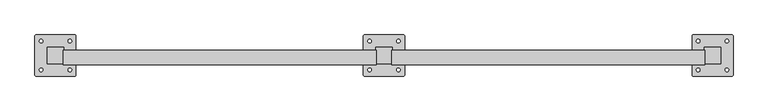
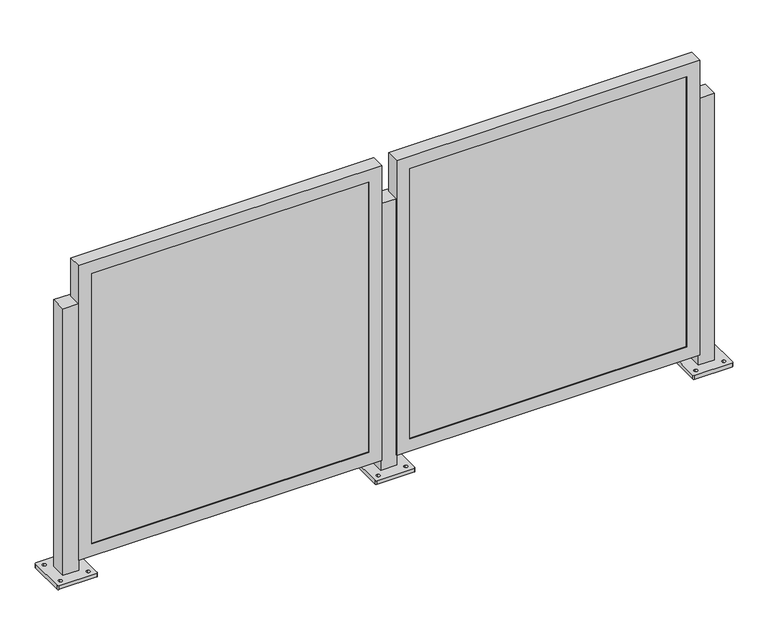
"""IFC4 building model written with IfcOpenShell, lengths in millimetres: railing geometry."""

from ifc_helpers import new_model, si_unit, frame, origin, place, context, project, spatial, polyline, circle_curve, outline, extrude, faceted_brep, source, transform, mapped, element, save
from ifc_brep_helpers import plane_surface, cylinder_surface, revolved_surface, advanced_brep


def railing_91e372f4(model_context):
    return source(origin(), model_context, "Body", "SolidModel", [
        advanced_brep(
        [(-26966.3219217, 2095.5584175, 914.4), (-26966.3219217, 2044.7584175, 914.4), (-26915.5219217, 2044.7584175, 914.4), (-26915.5219217, 2095.5584175, 914.4), (-27004.4219219, 2009.8334586, 0.0), (-27004.4219219, 2130.4833765, 0.0), (-27001.2468937, 2133.6584047, 0.0), (-26880.5969497, 2133.6584047, 0.0), (-26877.4219216, 2130.4833765, 0.0), (-26877.4219216, 2009.8334586, 0.0), (-26880.5969497, 2006.6584304, 0.0), (-27001.2468937, 2006.6584304, 0.0), (-26985.3719093, 2020.1521629, 0.0), (-26985.3719093, 2031.2646753, 0.0), (-26985.3719202, 2109.0521673, 0.0), (-26985.3719202, 2120.1646489, 0.0), (-26896.4719083, 2020.1521644, 0.0), (-26896.4719083, 2031.2646751, 0.0), (-26896.4719192, 2109.0521688, 0.0), (-26896.4719192, 2120.1646486, 0.0), (-26966.3219217, 2095.5584175, 12.7), (-26966.3219217, 2044.7584175, 12.7), (-26915.5219217, 2044.7584175, 12.7), (-26915.5219217, 2095.5584175, 12.7), (-27004.4219219, 2009.8334586, 12.7), (-27001.2468937, 2006.6584304, 12.7), (-26880.5969497, 2006.6584304, 12.7), (-26877.4219216, 2009.8334586, 12.7), (-26877.4219216, 2130.4833765, 12.7), (-26880.5969497, 2133.6584047, 12.7), (-27001.2468937, 2133.6584047, 12.7), (-27004.4219219, 2130.4833765, 12.7), (-26985.3719093, 2020.1521629, 12.7), (-26985.3719093, 2031.2646753, 12.7), (-26985.3719202, 2109.0521673, 12.7), (-26985.3719202, 2120.1646489, 12.7), (-26896.4719083, 2020.1521644, 12.7), (-26896.4719083, 2031.2646751, 12.7), (-26896.4719192, 2109.0521688, 12.7), (-26896.4719192, 2120.1646486, 12.7)],
        [
            (0, 1),
            (1, 2),
            (2, 3),
            (3, 0),
            (4, 5),
            (5, 6, circle_curve(frame((-27001.2468937, 2130.4833765, 0.0), z_axis=(0.0, 0.0, -1.0), x_axis=(0.0, 1.0, 0.0)), 3.1750282)),
            (6, 7),
            (7, 8, circle_curve(frame((-26880.5969497, 2130.4833765, 0.0), z_axis=(0.0, 0.0, -1.0), x_axis=(0.0, 1.0, 0.0)), 3.1750282)),
            (8, 9),
            (9, 10, circle_curve(frame((-26880.5969497, 2009.8334586, 0.0), z_axis=(0.0, 0.0, -1.0), x_axis=(0.0, 1.0, 0.0)), 3.1750282)),
            (10, 11),
            (11, 4, circle_curve(frame((-27001.2468937, 2009.8334586, 0.0), z_axis=(0.0, 0.0, -1.0), x_axis=(0.0, 1.0, 0.0)), 3.1750282)),
            (12, 13, circle_curve(frame((-26985.3719093, 2025.7084191, 0.0), z_axis=(0.0, 0.0, 1.0), x_axis=(0.0, 1.0, 0.0)), 5.5562562)),
            (13, 12, circle_curve(frame((-26985.3719093, 2025.7084191, 0.0), z_axis=(0.0, 0.0, 1.0), x_axis=(0.0, 1.0, 0.0)), 5.5562562)),
            (14, 15, circle_curve(frame((-26985.3719202, 2114.6084081, 0.0), z_axis=(0.0, 0.0, 1.0), x_axis=(0.0, 1.0, 0.0)), 5.5562408)),
            (15, 14, circle_curve(frame((-26985.3719202, 2114.6084081, 0.0), z_axis=(0.0, 0.0, 1.0), x_axis=(0.0, 1.0, 0.0)), 5.5562408)),
            (16, 17, circle_curve(frame((-26896.4719083, 2025.7084197, 0.0), z_axis=(0.0, 0.0, 1.0), x_axis=(0.0, 1.0, 0.0)), 5.5562553)),
            (17, 16, circle_curve(frame((-26896.4719083, 2025.7084197, 0.0), z_axis=(0.0, 0.0, 1.0), x_axis=(0.0, 1.0, 0.0)), 5.5562553)),
            (18, 19, circle_curve(frame((-26896.4719192, 2114.6084087, 0.0), z_axis=(0.0, 0.0, 1.0), x_axis=(0.0, 1.0, 0.0)), 5.5562399)),
            (19, 18, circle_curve(frame((-26896.4719192, 2114.6084087, 0.0), z_axis=(0.0, 0.0, 1.0), x_axis=(0.0, 1.0, 0.0)), 5.5562399)),
            (0, 20),
            (20, 21),
            (21, 1),
            (21, 22),
            (22, 2),
            (22, 23),
            (23, 3),
            (23, 20),
            (24, 25, circle_curve(frame((-27001.2468937, 2009.8334586, 12.7), z_axis=(0.0, 0.0, 1.0), x_axis=(0.0, 1.0, 0.0)), 3.1750282)),
            (25, 26),
            (26, 27, circle_curve(frame((-26880.5969497, 2009.8334586, 12.7), z_axis=(0.0, 0.0, 1.0), x_axis=(0.0, 1.0, 0.0)), 3.1750282)),
            (27, 28),
            (28, 29, circle_curve(frame((-26880.5969497, 2130.4833765, 12.7), z_axis=(0.0, 0.0, 1.0), x_axis=(0.0, 1.0, 0.0)), 3.1750282)),
            (29, 30),
            (30, 31, circle_curve(frame((-27001.2468937, 2130.4833765, 12.7), z_axis=(0.0, 0.0, 1.0), x_axis=(0.0, 1.0, 0.0)), 3.1750282)),
            (31, 24),
            (32, 33, circle_curve(frame((-26985.3719093, 2025.7084191, 12.7), z_axis=(0.0, 0.0, -1.0), x_axis=(0.0, 1.0, 0.0)), 5.5562562)),
            (33, 32, circle_curve(frame((-26985.3719093, 2025.7084191, 12.7), z_axis=(0.0, 0.0, -1.0), x_axis=(0.0, 1.0, 0.0)), 5.5562562)),
            (34, 35, circle_curve(frame((-26985.3719202, 2114.6084081, 12.7), z_axis=(0.0, 0.0, -1.0), x_axis=(0.0, 1.0, 0.0)), 5.5562408)),
            (35, 34, circle_curve(frame((-26985.3719202, 2114.6084081, 12.7), z_axis=(0.0, 0.0, -1.0), x_axis=(0.0, 1.0, 0.0)), 5.5562408)),
            (36, 37, circle_curve(frame((-26896.4719083, 2025.7084197, 12.7), z_axis=(0.0, 0.0, -1.0), x_axis=(0.0, 1.0, 0.0)), 5.5562553)),
            (37, 36, circle_curve(frame((-26896.4719083, 2025.7084197, 12.7), z_axis=(0.0, 0.0, -1.0), x_axis=(0.0, 1.0, 0.0)), 5.5562553)),
            (38, 39, circle_curve(frame((-26896.4719192, 2114.6084087, 12.7), z_axis=(0.0, 0.0, -1.0), x_axis=(0.0, 1.0, 0.0)), 5.5562399)),
            (39, 38, circle_curve(frame((-26896.4719192, 2114.6084087, 12.7), z_axis=(0.0, 0.0, -1.0), x_axis=(0.0, 1.0, 0.0)), 5.5562399)),
            (24, 4),
            (11, 25),
            (10, 26),
            (9, 27),
            (8, 28),
            (7, 29),
            (6, 30),
            (5, 31),
            (32, 12),
            (13, 33),
            (34, 14),
            (15, 35),
            (36, 16),
            (17, 37),
            (38, 18),
            (19, 39),
        ],
        [
            plane_surface(frame((-26966.3219217, 2044.7584175, 914.4), z_axis=(0.0, 0.0, 1.0), x_axis=(0.0, -1.0, 0.0))),
            plane_surface(frame((-26966.3219217, 2044.7584175, 0.0), z_axis=(0.0, 0.0, -1.0), x_axis=(0.0, 1.0, 0.0))),
            plane_surface(frame((-26966.3219217, 2095.5584175, 914.4), z_axis=(-1.0, 0.0, 0.0), x_axis=(0.0, 0.0, -1.0))),
            plane_surface(frame((-26966.3219217, 2044.7584175, 914.4), z_axis=(0.0, -1.0, 0.0), x_axis=(0.0, 0.0, -1.0))),
            plane_surface(frame((-26915.5219217, 2044.7584175, 914.4), z_axis=(1.0, 0.0, 0.0), x_axis=(0.0, 0.0, -1.0))),
            plane_surface(frame((-26915.5219217, 2095.5584175, 914.4), z_axis=(0.0, 1.0, 0.0), x_axis=(0.0, 0.0, -1.0))),
            plane_surface(frame((-27001.2468937, 2013.0084867, 12.7), z_axis=(0.0, 0.0, 1.0), x_axis=(-1.0, 0.0, 0.0))),
            cylinder_surface(frame((-27001.2468937, 2009.8334586, 0.0), z_axis=(0.0, 0.0, 1.0), x_axis=(0.0, 1.0, 0.0)), 3.1750282),
            plane_surface(frame((-27001.2468937, 2006.6584304, 12.7), z_axis=(1.1945386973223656e-12, -1.0, 0.0), x_axis=(0.0, 0.0, -1.0))),
            cylinder_surface(frame((-26880.5969497, 2009.8334586, 0.0), z_axis=(0.0, 0.0, 1.0), x_axis=(0.0, 1.0, 0.0)), 3.1750282),
            plane_surface(frame((-26877.4219216, 2009.8334586, 12.7), z_axis=(1.0, 0.0, 0.0), x_axis=(0.0, 0.0, -1.0))),
            cylinder_surface(frame((-26880.5969497, 2130.4833765, 0.0), z_axis=(0.0, 0.0, 1.0), x_axis=(0.0, 1.0, 0.0)), 3.1750282),
            plane_surface(frame((-26880.5969497, 2133.6584047, 12.7), z_axis=(-1.1946088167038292e-12, 1.0, 0.0), x_axis=(0.0, 0.0, -1.0))),
            cylinder_surface(frame((-27001.2468937, 2130.4833765, 0.0), z_axis=(0.0, 0.0, 1.0), x_axis=(0.0, 1.0, 0.0)), 3.1750282),
            plane_surface(frame((-27004.4219219, 2130.4833765, 12.7), z_axis=(-1.0, 0.0, 0.0), x_axis=(0.0, 0.0, -1.0))),
            revolved_surface(polyline([(-26985.3719093, 2031.2646753, 0.0), (-26985.3719093, 2031.2646753, 12.7)]), (-26985.3719093, 2025.7084191, 0.0), (0.0, 0.0, -1.0)),
            revolved_surface(polyline([(-26985.3719202, 2120.1646489, 0.0), (-26985.3719202, 2120.1646489, 12.7)]), (-26985.3719202, 2114.6084081, 0.0), (0.0, 0.0, -1.0)),
            revolved_surface(polyline([(-26896.4719083, 2031.264675, 0.0), (-26896.4719083, 2031.264675, 12.7)]), (-26896.4719083, 2025.7084197, 0.0), (0.0, 0.0, -1.0)),
            revolved_surface(polyline([(-26896.4719192, 2120.1646486, 0.0), (-26896.4719192, 2120.1646486, 12.7)]), (-26896.4719192, 2114.6084087, 0.0), (0.0, 0.0, -1.0)),
        ],
        [
            (0, [[1, 2, 3, 4]]),
            (1, [[5, 6, 7, 8, 9, 10, 11, 12], [13, 14], [15, 16], [17, 18], [19, 20]]),
            (2, [[-1, 21, 22, 23]]),
            (3, [[-2, -23, 24, 25]]),
            (4, [[-3, -25, 26, 27]]),
            (5, [[-4, -27, 28, -21]]),
            (6, [[29, 30, 31, 32, 33, 34, 35, 36], [-22, -28, -26, -24], [37, 38], [39, 40], [41, 42], [43, 44]]),
            (7, [[-29, 45, -12, 46]]),
            (8, [[-30, -46, -11, 47]]),
            (9, [[-31, -47, -10, 48]]),
            (10, [[-32, -48, -9, 49]]),
            (11, [[-33, -49, -8, 50]]),
            (12, [[-34, -50, -7, 51]]),
            (13, [[-35, -51, -6, 52]]),
            (14, [[-36, -52, -5, -45]]),
            (15, [[-37, 53, -14, 54]]),
            (15, [[-38, -54, -13, -53]]),
            (16, [[-39, 55, -16, 56]]),
            (16, [[-40, -56, -15, -55]]),
            (17, [[-41, 57, -18, 58]]),
            (17, [[-42, -58, -17, -57]]),
            (18, [[-43, 59, -20, 60]]),
            (18, [[-44, -60, -19, -59]]),
        ],
    ),
        faceted_brep([(-27932.7263751, 2042.0152175, 47.625), (-26964.3513751, 2042.0152175, 47.625), (-26964.3513751, 2042.0152175, 1044.575), (-27932.7263751, 2042.0152175, 1044.575), (-27891.4513751, 2042.0152175, 1003.3), (-27005.6263751, 2042.0152175, 1003.3), (-27005.6263751, 2042.0152175, 88.9), (-27891.4513751, 2042.0152175, 88.9), (-27891.4513751, 2044.7584175, 1003.3), (-27891.4513751, 2044.7584175, 88.9), (-27932.7263751, 2085.8885141, 1044.575), (-27932.7263751, 2085.8885141, 47.625), (-27929.5513751, 2085.8885141, 1041.4), (-27929.5513751, 2044.7584175, 1041.4), (-27929.5513751, 2044.7584175, 50.8), (-27929.5513751, 2085.8885141, 50.8), (-27005.6263751, 2044.7584175, 88.9), (-26964.3513751, 2085.8885141, 47.625), (-26967.5263751, 2044.7584175, 50.8), (-26967.5263751, 2085.8885141, 50.8), (-27005.6263751, 2044.7584175, 1003.3), (-26964.3513751, 2085.8885141, 1044.575), (-26967.5263751, 2044.7584175, 1041.4), (-26967.5263751, 2085.8885141, 1041.4)], [[[0, 1, 2, 3], [4, 5, 6, 7]], [[8, 4, 7, 9]], [[3, 10, 11, 0]], [[12, 13, 14, 15]], [[9, 7, 6, 16]], [[0, 11, 17, 1]], [[15, 14, 18, 19]], [[16, 6, 5, 20]], [[1, 17, 21, 2]], [[19, 18, 22, 23]], [[20, 5, 4, 8]], [[10, 21, 17, 11], [15, 19, 23, 12]], [[2, 21, 10, 3]], [[13, 22, 18, 14], [9, 16, 20, 8]], [[23, 22, 13, 12]]]),
        extrude(outline(polyline([(-27929.5513751, 2054.2834175), (-26967.5263751, 2054.2834175), (-26967.5263751, 2044.7584175), (-27929.5513751, 2044.7584175), (-27929.5513751, 2054.2834175)])), frame((0.0, 0.0, 50.8), z_axis=(0.0, 0.0, 1.0), x_axis=(1.0, 0.0, 0.0)), (0.0, 0.0, 1.0), 990.6),
        advanced_brep(
        [(-27982.3219217, 2095.5584175, 914.4), (-27982.3219217, 2044.7584175, 914.4), (-27931.5219217, 2044.7584175, 914.4), (-27931.5219217, 2095.5584175, 914.4), (-28020.4219219, 2009.8334586, 0.0), (-28020.4219219, 2130.4833765, 0.0), (-28017.2468937, 2133.6584047, 0.0), (-27896.5969497, 2133.6584047, 0.0), (-27893.4219216, 2130.4833765, 0.0), (-27893.4219216, 2009.8334586, 0.0), (-27896.5969497, 2006.6584304, 0.0), (-28017.2468937, 2006.6584304, 0.0), (-28001.3719093, 2020.1521629, 0.0), (-28001.3719093, 2031.2646753, 0.0), (-28001.3719202, 2109.0521673, 0.0), (-28001.3719202, 2120.1646489, 0.0), (-27912.4719083, 2020.1521644, 0.0), (-27912.4719083, 2031.2646751, 0.0), (-27912.4719192, 2109.0521688, 0.0), (-27912.4719192, 2120.1646486, 0.0), (-27982.3219217, 2095.5584175, 12.7), (-27982.3219217, 2044.7584175, 12.7), (-27931.5219217, 2044.7584175, 12.7), (-27931.5219217, 2095.5584175, 12.7), (-28020.4219219, 2009.8334586, 12.7), (-28017.2468937, 2006.6584304, 12.7), (-27896.5969497, 2006.6584304, 12.7), (-27893.4219216, 2009.8334586, 12.7), (-27893.4219216, 2130.4833765, 12.7), (-27896.5969497, 2133.6584047, 12.7), (-28017.2468937, 2133.6584047, 12.7), (-28020.4219219, 2130.4833765, 12.7), (-28001.3719093, 2020.1521629, 12.7), (-28001.3719093, 2031.2646753, 12.7), (-28001.3719202, 2109.0521673, 12.7), (-28001.3719202, 2120.1646489, 12.7), (-27912.4719083, 2020.1521644, 12.7), (-27912.4719083, 2031.2646751, 12.7), (-27912.4719192, 2109.0521688, 12.7), (-27912.4719192, 2120.1646486, 12.7)],
        [
            (0, 1),
            (1, 2),
            (2, 3),
            (3, 0),
            (4, 5),
            (5, 6, circle_curve(frame((-28017.2468937, 2130.4833765, 0.0), z_axis=(0.0, 0.0, -1.0), x_axis=(0.0, 1.0, 0.0)), 3.1750282)),
            (6, 7),
            (7, 8, circle_curve(frame((-27896.5969497, 2130.4833765, 0.0), z_axis=(0.0, 0.0, -1.0), x_axis=(0.0, 1.0, 0.0)), 3.1750282)),
            (8, 9),
            (9, 10, circle_curve(frame((-27896.5969497, 2009.8334586, 0.0), z_axis=(0.0, 0.0, -1.0), x_axis=(0.0, 1.0, 0.0)), 3.1750282)),
            (10, 11),
            (11, 4, circle_curve(frame((-28017.2468937, 2009.8334586, 0.0), z_axis=(0.0, 0.0, -1.0), x_axis=(0.0, 1.0, 0.0)), 3.1750282)),
            (12, 13, circle_curve(frame((-28001.3719093, 2025.7084191, 0.0), z_axis=(0.0, 0.0, 1.0), x_axis=(0.0, 1.0, 0.0)), 5.5562562)),
            (13, 12, circle_curve(frame((-28001.3719093, 2025.7084191, 0.0), z_axis=(0.0, 0.0, 1.0), x_axis=(0.0, 1.0, 0.0)), 5.5562562)),
            (14, 15, circle_curve(frame((-28001.3719202, 2114.6084081, 0.0), z_axis=(0.0, 0.0, 1.0), x_axis=(0.0, 1.0, 0.0)), 5.5562408)),
            (15, 14, circle_curve(frame((-28001.3719202, 2114.6084081, 0.0), z_axis=(0.0, 0.0, 1.0), x_axis=(0.0, 1.0, 0.0)), 5.5562408)),
            (16, 17, circle_curve(frame((-27912.4719083, 2025.7084197, 0.0), z_axis=(0.0, 0.0, 1.0), x_axis=(0.0, 1.0, 0.0)), 5.5562553)),
            (17, 16, circle_curve(frame((-27912.4719083, 2025.7084197, 0.0), z_axis=(0.0, 0.0, 1.0), x_axis=(0.0, 1.0, 0.0)), 5.5562553)),
            (18, 19, circle_curve(frame((-27912.4719192, 2114.6084087, 0.0), z_axis=(0.0, 0.0, 1.0), x_axis=(0.0, 1.0, 0.0)), 5.5562399)),
            (19, 18, circle_curve(frame((-27912.4719192, 2114.6084087, 0.0), z_axis=(0.0, 0.0, 1.0), x_axis=(0.0, 1.0, 0.0)), 5.5562399)),
            (0, 20),
            (20, 21),
            (21, 1),
            (21, 22),
            (22, 2),
            (22, 23),
            (23, 3),
            (23, 20),
            (24, 25, circle_curve(frame((-28017.2468937, 2009.8334586, 12.7), z_axis=(0.0, 0.0, 1.0), x_axis=(0.0, 1.0, 0.0)), 3.1750282)),
            (25, 26),
            (26, 27, circle_curve(frame((-27896.5969497, 2009.8334586, 12.7), z_axis=(0.0, 0.0, 1.0), x_axis=(0.0, 1.0, 0.0)), 3.1750282)),
            (27, 28),
            (28, 29, circle_curve(frame((-27896.5969497, 2130.4833765, 12.7), z_axis=(0.0, 0.0, 1.0), x_axis=(0.0, 1.0, 0.0)), 3.1750282)),
            (29, 30),
            (30, 31, circle_curve(frame((-28017.2468937, 2130.4833765, 12.7), z_axis=(0.0, 0.0, 1.0), x_axis=(0.0, 1.0, 0.0)), 3.1750282)),
            (31, 24),
            (32, 33, circle_curve(frame((-28001.3719093, 2025.7084191, 12.7), z_axis=(0.0, 0.0, -1.0), x_axis=(0.0, 1.0, 0.0)), 5.5562562)),
            (33, 32, circle_curve(frame((-28001.3719093, 2025.7084191, 12.7), z_axis=(0.0, 0.0, -1.0), x_axis=(0.0, 1.0, 0.0)), 5.5562562)),
            (34, 35, circle_curve(frame((-28001.3719202, 2114.6084081, 12.7), z_axis=(0.0, 0.0, -1.0), x_axis=(0.0, 1.0, 0.0)), 5.5562408)),
            (35, 34, circle_curve(frame((-28001.3719202, 2114.6084081, 12.7), z_axis=(0.0, 0.0, -1.0), x_axis=(0.0, 1.0, 0.0)), 5.5562408)),
            (36, 37, circle_curve(frame((-27912.4719083, 2025.7084197, 12.7), z_axis=(0.0, 0.0, -1.0), x_axis=(0.0, 1.0, 0.0)), 5.5562553)),
            (37, 36, circle_curve(frame((-27912.4719083, 2025.7084197, 12.7), z_axis=(0.0, 0.0, -1.0), x_axis=(0.0, 1.0, 0.0)), 5.5562553)),
            (38, 39, circle_curve(frame((-27912.4719192, 2114.6084087, 12.7), z_axis=(0.0, 0.0, -1.0), x_axis=(0.0, 1.0, 0.0)), 5.5562399)),
            (39, 38, circle_curve(frame((-27912.4719192, 2114.6084087, 12.7), z_axis=(0.0, 0.0, -1.0), x_axis=(0.0, 1.0, 0.0)), 5.5562399)),
            (24, 4),
            (11, 25),
            (10, 26),
            (9, 27),
            (8, 28),
            (7, 29),
            (6, 30),
            (5, 31),
            (32, 12),
            (13, 33),
            (34, 14),
            (15, 35),
            (36, 16),
            (17, 37),
            (38, 18),
            (19, 39),
        ],
        [
            plane_surface(frame((-27982.3219217, 2044.7584175, 914.4), z_axis=(0.0, 0.0, 1.0), x_axis=(0.0, -1.0, 0.0))),
            plane_surface(frame((-27982.3219217, 2044.7584175, 0.0), z_axis=(0.0, 0.0, -1.0), x_axis=(0.0, 1.0, 0.0))),
            plane_surface(frame((-27982.3219217, 2095.5584175, 914.4), z_axis=(-1.0, 0.0, 0.0), x_axis=(0.0, 0.0, -1.0))),
            plane_surface(frame((-27982.3219217, 2044.7584175, 914.4), z_axis=(0.0, -1.0, 0.0), x_axis=(0.0, 0.0, -1.0))),
            plane_surface(frame((-27931.5219217, 2044.7584175, 914.4), z_axis=(1.0, 0.0, 0.0), x_axis=(0.0, 0.0, -1.0))),
            plane_surface(frame((-27931.5219217, 2095.5584175, 914.4), z_axis=(0.0, 1.0, 0.0), x_axis=(0.0, 0.0, -1.0))),
            plane_surface(frame((-28017.2468937, 2013.0084867, 12.7), z_axis=(0.0, 0.0, 1.0), x_axis=(-1.0, 0.0, 0.0))),
            cylinder_surface(frame((-28017.2468937, 2009.8334586, 0.0), z_axis=(0.0, 0.0, 1.0), x_axis=(0.0, 1.0, 0.0)), 3.1750282),
            plane_surface(frame((-28017.2468937, 2006.6584304, 12.7), z_axis=(1.1945386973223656e-12, -1.0, 0.0), x_axis=(0.0, 0.0, -1.0))),
            cylinder_surface(frame((-27896.5969497, 2009.8334586, 0.0), z_axis=(0.0, 0.0, 1.0), x_axis=(0.0, 1.0, 0.0)), 3.1750282),
            plane_surface(frame((-27893.4219216, 2009.8334586, 12.7), z_axis=(1.0, 0.0, 0.0), x_axis=(0.0, 0.0, -1.0))),
            cylinder_surface(frame((-27896.5969497, 2130.4833765, 0.0), z_axis=(0.0, 0.0, 1.0), x_axis=(0.0, 1.0, 0.0)), 3.1750282),
            plane_surface(frame((-27896.5969497, 2133.6584047, 12.7), z_axis=(-1.1946088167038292e-12, 1.0, 0.0), x_axis=(0.0, 0.0, -1.0))),
            cylinder_surface(frame((-28017.2468937, 2130.4833765, 0.0), z_axis=(0.0, 0.0, 1.0), x_axis=(0.0, 1.0, 0.0)), 3.1750282),
            plane_surface(frame((-28020.4219219, 2130.4833765, 12.7), z_axis=(-1.0, 0.0, 0.0), x_axis=(0.0, 0.0, -1.0))),
            revolved_surface(polyline([(-28001.3719093, 2031.2646753, 0.0), (-28001.3719093, 2031.2646753, 12.7)]), (-28001.3719093, 2025.7084191, 0.0), (0.0, 0.0, -1.0)),
            revolved_surface(polyline([(-28001.3719202, 2120.1646489, 0.0), (-28001.3719202, 2120.1646489, 12.7)]), (-28001.3719202, 2114.6084081, 0.0), (0.0, 0.0, -1.0)),
            revolved_surface(polyline([(-27912.4719083, 2031.264675, 0.0), (-27912.4719083, 2031.264675, 12.7)]), (-27912.4719083, 2025.7084197, 0.0), (0.0, 0.0, -1.0)),
            revolved_surface(polyline([(-27912.4719192, 2120.1646486, 0.0), (-27912.4719192, 2120.1646486, 12.7)]), (-27912.4719192, 2114.6084087, 0.0), (0.0, 0.0, -1.0)),
        ],
        [
            (0, [[1, 2, 3, 4]]),
            (1, [[5, 6, 7, 8, 9, 10, 11, 12], [13, 14], [15, 16], [17, 18], [19, 20]]),
            (2, [[-1, 21, 22, 23]]),
            (3, [[-2, -23, 24, 25]]),
            (4, [[-3, -25, 26, 27]]),
            (5, [[-4, -27, 28, -21]]),
            (6, [[29, 30, 31, 32, 33, 34, 35, 36], [-22, -28, -26, -24], [37, 38], [39, 40], [41, 42], [43, 44]]),
            (7, [[-29, 45, -12, 46]]),
            (8, [[-30, -46, -11, 47]]),
            (9, [[-31, -47, -10, 48]]),
            (10, [[-32, -48, -9, 49]]),
            (11, [[-33, -49, -8, 50]]),
            (12, [[-34, -50, -7, 51]]),
            (13, [[-35, -51, -6, 52]]),
            (14, [[-36, -52, -5, -45]]),
            (15, [[-37, 53, -14, 54]]),
            (15, [[-38, -54, -13, -53]]),
            (16, [[-39, 55, -16, 56]]),
            (16, [[-40, -56, -15, -55]]),
            (17, [[-41, 57, -18, 58]]),
            (17, [[-42, -58, -17, -57]]),
            (18, [[-43, 59, -20, 60]]),
            (18, [[-44, -60, -19, -59]]),
        ],
    ),
        faceted_brep([(-28948.7263751, 2042.0152175, 47.625), (-27980.3513751, 2042.0152175, 47.625), (-27980.3513751, 2042.0152175, 1044.575), (-28948.7263751, 2042.0152175, 1044.575), (-28907.4513751, 2042.0152175, 1003.3), (-28021.6263751, 2042.0152175, 1003.3), (-28021.6263751, 2042.0152175, 88.9), (-28907.4513751, 2042.0152175, 88.9), (-28907.4513751, 2044.7584175, 1003.3), (-28907.4513751, 2044.7584175, 88.9), (-28948.7263751, 2085.8885141, 1044.575), (-28948.7263751, 2085.8885141, 47.625), (-28945.5513751, 2085.8885141, 1041.4), (-28945.5513751, 2044.7584175, 1041.4), (-28945.5513751, 2044.7584175, 50.8), (-28945.5513751, 2085.8885141, 50.8), (-28021.6263751, 2044.7584175, 88.9), (-27980.3513751, 2085.8885141, 47.625), (-27983.5263751, 2044.7584175, 50.8), (-27983.5263751, 2085.8885141, 50.8), (-28021.6263751, 2044.7584175, 1003.3), (-27980.3513751, 2085.8885141, 1044.575), (-27983.5263751, 2044.7584175, 1041.4), (-27983.5263751, 2085.8885141, 1041.4)], [[[0, 1, 2, 3], [4, 5, 6, 7]], [[8, 4, 7, 9]], [[3, 10, 11, 0]], [[12, 13, 14, 15]], [[9, 7, 6, 16]], [[0, 11, 17, 1]], [[15, 14, 18, 19]], [[16, 6, 5, 20]], [[1, 17, 21, 2]], [[19, 18, 22, 23]], [[20, 5, 4, 8]], [[10, 21, 17, 11], [15, 19, 23, 12]], [[2, 21, 10, 3]], [[13, 22, 18, 14], [9, 16, 20, 8]], [[23, 22, 13, 12]]]),
        extrude(outline(polyline([(-28945.5513751, 2054.2834175), (-27983.5263751, 2054.2834175), (-27983.5263751, 2044.7584175), (-28945.5513751, 2044.7584175), (-28945.5513751, 2054.2834175)])), frame((0.0, 0.0, 50.8), z_axis=(0.0, 0.0, 1.0), x_axis=(1.0, 0.0, 0.0)), (0.0, 0.0, 1.0), 990.6),
        advanced_brep(
        [(-28998.3219217, 2095.5584175, 914.4), (-28998.3219217, 2044.7584175, 914.4), (-28947.5219217, 2044.7584175, 914.4), (-28947.5219217, 2095.5584175, 914.4), (-29036.4219219, 2009.8334586, 0.0), (-29036.4219219, 2130.4833765, 0.0), (-29033.2468937, 2133.6584047, 0.0), (-28912.5969497, 2133.6584047, 0.0), (-28909.4219216, 2130.4833765, 0.0), (-28909.4219216, 2009.8334586, 0.0), (-28912.5969497, 2006.6584304, 0.0), (-29033.2468937, 2006.6584304, 0.0), (-29017.3719093, 2020.1521629, 0.0), (-29017.3719093, 2031.2646753, 0.0), (-29017.3719202, 2109.0521673, 0.0), (-29017.3719202, 2120.1646489, 0.0), (-28928.4719083, 2020.1521644, 0.0), (-28928.4719083, 2031.2646751, 0.0), (-28928.4719192, 2109.0521688, 0.0), (-28928.4719192, 2120.1646486, 0.0), (-28998.3219217, 2095.5584175, 12.7), (-28998.3219217, 2044.7584175, 12.7), (-28947.5219217, 2044.7584175, 12.7), (-28947.5219217, 2095.5584175, 12.7), (-29036.4219219, 2009.8334586, 12.7), (-29033.2468937, 2006.6584304, 12.7), (-28912.5969497, 2006.6584304, 12.7), (-28909.4219216, 2009.8334586, 12.7), (-28909.4219216, 2130.4833765, 12.7), (-28912.5969497, 2133.6584047, 12.7), (-29033.2468937, 2133.6584047, 12.7), (-29036.4219219, 2130.4833765, 12.7), (-29017.3719093, 2020.1521629, 12.7), (-29017.3719093, 2031.2646753, 12.7), (-29017.3719202, 2109.0521673, 12.7), (-29017.3719202, 2120.1646489, 12.7), (-28928.4719083, 2020.1521644, 12.7), (-28928.4719083, 2031.2646751, 12.7), (-28928.4719192, 2109.0521688, 12.7), (-28928.4719192, 2120.1646486, 12.7)],
        [
            (0, 1),
            (1, 2),
            (2, 3),
            (3, 0),
            (4, 5),
            (5, 6, circle_curve(frame((-29033.2468937, 2130.4833765, 0.0), z_axis=(0.0, 0.0, -1.0), x_axis=(0.0, 1.0, 0.0)), 3.1750282)),
            (6, 7),
            (7, 8, circle_curve(frame((-28912.5969497, 2130.4833765, 0.0), z_axis=(0.0, 0.0, -1.0), x_axis=(0.0, 1.0, 0.0)), 3.1750282)),
            (8, 9),
            (9, 10, circle_curve(frame((-28912.5969497, 2009.8334586, 0.0), z_axis=(0.0, 0.0, -1.0), x_axis=(0.0, 1.0, 0.0)), 3.1750282)),
            (10, 11),
            (11, 4, circle_curve(frame((-29033.2468937, 2009.8334586, 0.0), z_axis=(0.0, 0.0, -1.0), x_axis=(0.0, 1.0, 0.0)), 3.1750282)),
            (12, 13, circle_curve(frame((-29017.3719093, 2025.7084191, 0.0), z_axis=(0.0, 0.0, 1.0), x_axis=(0.0, 1.0, 0.0)), 5.5562562)),
            (13, 12, circle_curve(frame((-29017.3719093, 2025.7084191, 0.0), z_axis=(0.0, 0.0, 1.0), x_axis=(0.0, 1.0, 0.0)), 5.5562562)),
            (14, 15, circle_curve(frame((-29017.3719202, 2114.6084081, 0.0), z_axis=(0.0, 0.0, 1.0), x_axis=(0.0, 1.0, 0.0)), 5.5562408)),
            (15, 14, circle_curve(frame((-29017.3719202, 2114.6084081, 0.0), z_axis=(0.0, 0.0, 1.0), x_axis=(0.0, 1.0, 0.0)), 5.5562408)),
            (16, 17, circle_curve(frame((-28928.4719083, 2025.7084197, 0.0), z_axis=(0.0, 0.0, 1.0), x_axis=(0.0, 1.0, 0.0)), 5.5562553)),
            (17, 16, circle_curve(frame((-28928.4719083, 2025.7084197, 0.0), z_axis=(0.0, 0.0, 1.0), x_axis=(0.0, 1.0, 0.0)), 5.5562553)),
            (18, 19, circle_curve(frame((-28928.4719192, 2114.6084087, 0.0), z_axis=(0.0, 0.0, 1.0), x_axis=(0.0, 1.0, 0.0)), 5.5562399)),
            (19, 18, circle_curve(frame((-28928.4719192, 2114.6084087, 0.0), z_axis=(0.0, 0.0, 1.0), x_axis=(0.0, 1.0, 0.0)), 5.5562399)),
            (0, 20),
            (20, 21),
            (21, 1),
            (21, 22),
            (22, 2),
            (22, 23),
            (23, 3),
            (23, 20),
            (24, 25, circle_curve(frame((-29033.2468937, 2009.8334586, 12.7), z_axis=(0.0, 0.0, 1.0), x_axis=(0.0, 1.0, 0.0)), 3.1750282)),
            (25, 26),
            (26, 27, circle_curve(frame((-28912.5969497, 2009.8334586, 12.7), z_axis=(0.0, 0.0, 1.0), x_axis=(0.0, 1.0, 0.0)), 3.1750282)),
            (27, 28),
            (28, 29, circle_curve(frame((-28912.5969497, 2130.4833765, 12.7), z_axis=(0.0, 0.0, 1.0), x_axis=(0.0, 1.0, 0.0)), 3.1750282)),
            (29, 30),
            (30, 31, circle_curve(frame((-29033.2468937, 2130.4833765, 12.7), z_axis=(0.0, 0.0, 1.0), x_axis=(0.0, 1.0, 0.0)), 3.1750282)),
            (31, 24),
            (32, 33, circle_curve(frame((-29017.3719093, 2025.7084191, 12.7), z_axis=(0.0, 0.0, -1.0), x_axis=(0.0, 1.0, 0.0)), 5.5562562)),
            (33, 32, circle_curve(frame((-29017.3719093, 2025.7084191, 12.7), z_axis=(0.0, 0.0, -1.0), x_axis=(0.0, 1.0, 0.0)), 5.5562562)),
            (34, 35, circle_curve(frame((-29017.3719202, 2114.6084081, 12.7), z_axis=(0.0, 0.0, -1.0), x_axis=(0.0, 1.0, 0.0)), 5.5562408)),
            (35, 34, circle_curve(frame((-29017.3719202, 2114.6084081, 12.7), z_axis=(0.0, 0.0, -1.0), x_axis=(0.0, 1.0, 0.0)), 5.5562408)),
            (36, 37, circle_curve(frame((-28928.4719083, 2025.7084197, 12.7), z_axis=(0.0, 0.0, -1.0), x_axis=(0.0, 1.0, 0.0)), 5.5562553)),
            (37, 36, circle_curve(frame((-28928.4719083, 2025.7084197, 12.7), z_axis=(0.0, 0.0, -1.0), x_axis=(0.0, 1.0, 0.0)), 5.5562553)),
            (38, 39, circle_curve(frame((-28928.4719192, 2114.6084087, 12.7), z_axis=(0.0, 0.0, -1.0), x_axis=(0.0, 1.0, 0.0)), 5.5562399)),
            (39, 38, circle_curve(frame((-28928.4719192, 2114.6084087, 12.7), z_axis=(0.0, 0.0, -1.0), x_axis=(0.0, 1.0, 0.0)), 5.5562399)),
            (24, 4),
            (11, 25),
            (10, 26),
            (9, 27),
            (8, 28),
            (7, 29),
            (6, 30),
            (5, 31),
            (32, 12),
            (13, 33),
            (34, 14),
            (15, 35),
            (36, 16),
            (17, 37),
            (38, 18),
            (19, 39),
        ],
        [
            plane_surface(frame((-28998.3219217, 2044.7584175, 914.4), z_axis=(0.0, 0.0, 1.0), x_axis=(0.0, -1.0, 0.0))),
            plane_surface(frame((-28998.3219217, 2044.7584175, 0.0), z_axis=(0.0, 0.0, -1.0), x_axis=(0.0, 1.0, 0.0))),
            plane_surface(frame((-28998.3219217, 2095.5584175, 914.4), z_axis=(-1.0, 0.0, 0.0), x_axis=(0.0, 0.0, -1.0))),
            plane_surface(frame((-28998.3219217, 2044.7584175, 914.4), z_axis=(0.0, -1.0, 0.0), x_axis=(0.0, 0.0, -1.0))),
            plane_surface(frame((-28947.5219217, 2044.7584175, 914.4), z_axis=(1.0, 0.0, 0.0), x_axis=(0.0, 0.0, -1.0))),
            plane_surface(frame((-28947.5219217, 2095.5584175, 914.4), z_axis=(0.0, 1.0, 0.0), x_axis=(0.0, 0.0, -1.0))),
            plane_surface(frame((-29033.2468937, 2013.0084867, 12.7), z_axis=(0.0, 0.0, 1.0), x_axis=(-1.0, 0.0, 0.0))),
            cylinder_surface(frame((-29033.2468937, 2009.8334586, 0.0), z_axis=(0.0, 0.0, 1.0), x_axis=(0.0, 1.0, 0.0)), 3.1750282),
            plane_surface(frame((-29033.2468937, 2006.6584304, 12.7), z_axis=(1.1945386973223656e-12, -1.0, 0.0), x_axis=(0.0, 0.0, -1.0))),
            cylinder_surface(frame((-28912.5969497, 2009.8334586, 0.0), z_axis=(0.0, 0.0, 1.0), x_axis=(0.0, 1.0, 0.0)), 3.1750282),
            plane_surface(frame((-28909.4219216, 2009.8334586, 12.7), z_axis=(1.0, 0.0, 0.0), x_axis=(0.0, 0.0, -1.0))),
            cylinder_surface(frame((-28912.5969497, 2130.4833765, 0.0), z_axis=(0.0, 0.0, 1.0), x_axis=(0.0, 1.0, 0.0)), 3.1750282),
            plane_surface(frame((-28912.5969497, 2133.6584047, 12.7), z_axis=(-1.1946088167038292e-12, 1.0, 0.0), x_axis=(0.0, 0.0, -1.0))),
            cylinder_surface(frame((-29033.2468937, 2130.4833765, 0.0), z_axis=(0.0, 0.0, 1.0), x_axis=(0.0, 1.0, 0.0)), 3.1750282),
            plane_surface(frame((-29036.4219219, 2130.4833765, 12.7), z_axis=(-1.0, 0.0, 0.0), x_axis=(0.0, 0.0, -1.0))),
            revolved_surface(polyline([(-29017.3719093, 2031.2646753, 0.0), (-29017.3719093, 2031.2646753, 12.7)]), (-29017.3719093, 2025.7084191, 0.0), (0.0, 0.0, -1.0)),
            revolved_surface(polyline([(-29017.3719202, 2120.1646489, 0.0), (-29017.3719202, 2120.1646489, 12.7)]), (-29017.3719202, 2114.6084081, 0.0), (0.0, 0.0, -1.0)),
            revolved_surface(polyline([(-28928.4719083, 2031.264675, 0.0), (-28928.4719083, 2031.264675, 12.7)]), (-28928.4719083, 2025.7084197, 0.0), (0.0, 0.0, -1.0)),
            revolved_surface(polyline([(-28928.4719192, 2120.1646486, 0.0), (-28928.4719192, 2120.1646486, 12.7)]), (-28928.4719192, 2114.6084087, 0.0), (0.0, 0.0, -1.0)),
        ],
        [
            (0, [[1, 2, 3, 4]]),
            (1, [[5, 6, 7, 8, 9, 10, 11, 12], [13, 14], [15, 16], [17, 18], [19, 20]]),
            (2, [[-1, 21, 22, 23]]),
            (3, [[-2, -23, 24, 25]]),
            (4, [[-3, -25, 26, 27]]),
            (5, [[-4, -27, 28, -21]]),
            (6, [[29, 30, 31, 32, 33, 34, 35, 36], [-22, -28, -26, -24], [37, 38], [39, 40], [41, 42], [43, 44]]),
            (7, [[-29, 45, -12, 46]]),
            (8, [[-30, -46, -11, 47]]),
            (9, [[-31, -47, -10, 48]]),
            (10, [[-32, -48, -9, 49]]),
            (11, [[-33, -49, -8, 50]]),
            (12, [[-34, -50, -7, 51]]),
            (13, [[-35, -51, -6, 52]]),
            (14, [[-36, -52, -5, -45]]),
            (15, [[-37, 53, -14, 54]]),
            (15, [[-38, -54, -13, -53]]),
            (16, [[-39, 55, -16, 56]]),
            (16, [[-40, -56, -15, -55]]),
            (17, [[-41, 57, -18, 58]]),
            (17, [[-42, -58, -17, -57]]),
            (18, [[-43, 59, -20, 60]]),
            (18, [[-44, -60, -19, -59]]),
        ],
    ),
    ])


if __name__ == "__main__":
    model = new_model("IFC4")
    model_context = context("Model", 3, world=origin())
    ifc_project = project(units=[si_unit("LENGTHUNIT", "METRE", prefix="MILLI")], contexts=[model_context])
    site = spatial("IfcSite", under=ifc_project)
    building = spatial("IfcBuilding", under=site)
    placement = place(None, origin())
    railing_shape = railing_91e372f4(model_context)
    element("IfcRailing", 1, ObjectType="Railing - Amico Architectural - Perforated Railing - 3/4\" Circle - 1\" Staggered", at=placement, inside=building, context=model_context, shape_type="MappedRepresentation", body=[
        mapped(railing_shape, transform((0.0, 0.0, 0.0), x_axis=(1.0, 0.0, 0.0), y_axis=(0.0, 1.0, 0.0), z_axis=(0.0, 0.0, 1.0))),
    ])
    save(model, "model.ifc")
